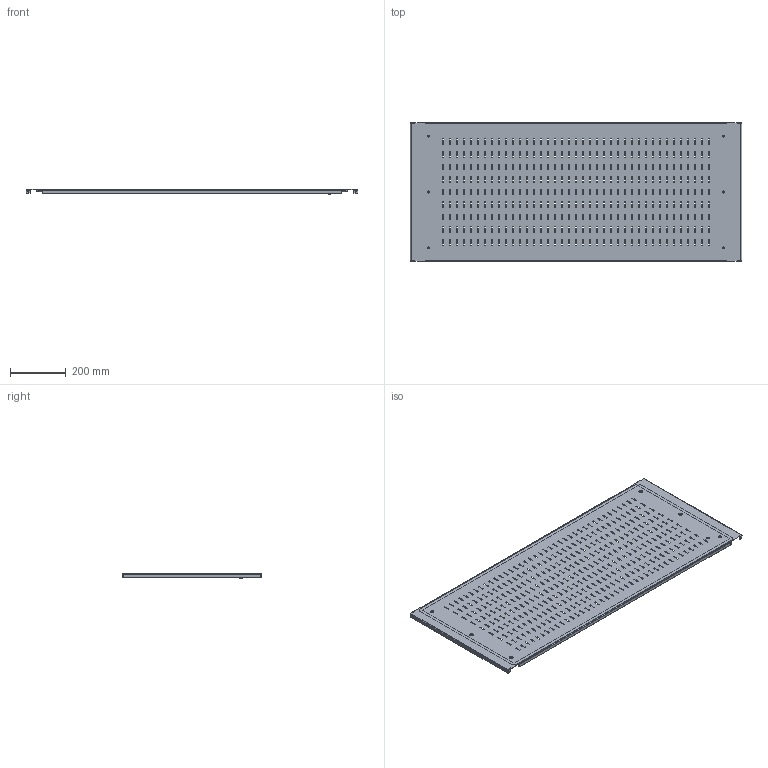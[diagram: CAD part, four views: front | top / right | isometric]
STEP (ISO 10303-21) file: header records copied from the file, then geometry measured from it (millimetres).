
FILE_DESCRIPTION(('STEP AP203'), '1');
FILE_NAME('Ïàíåëü ëèöåâàÿ ïåðôîðèðîâàííàÿ 500õ1200 ìì OptiBox M 419959 ÊÝÀÇ', '', ('UNSPECIFIED'), ('UNSPECIFIED'), 'C3D Converter', 'C3D Toolkit', '');
FILE_SCHEMA(('CONFIG_CONTROL_DESIGN'));
Length unit declared in the file: millimetre
Bounding box: 1186.4 x 497 x 18.9 mm (x, y, z)
Volume: 1060150.8 mm3; surface area: 1330192.6 mm2
Topology: 3 solids, 3 shells, 1578 faces, 4609 edges, 3046 vertices
Faces by surface type: plane 1515, cylinder 55, bspline 8
Full cylindrical faces by diameter (mm): 0.75 x1, 1 x1, 5 x2, 7.3 x6, 8 x1, 9.3 x1, 13 x1, 13.5 x6
Entity records: 53624 total; most frequent: CARTESIAN_POINT 10451, ORIENTED_EDGE 9180, DIRECTION 7774, EDGE_CURVE 4590, LINE 4476, VECTOR 4476, VERTEX_POINT 3046, EDGE_LOOP 2326
